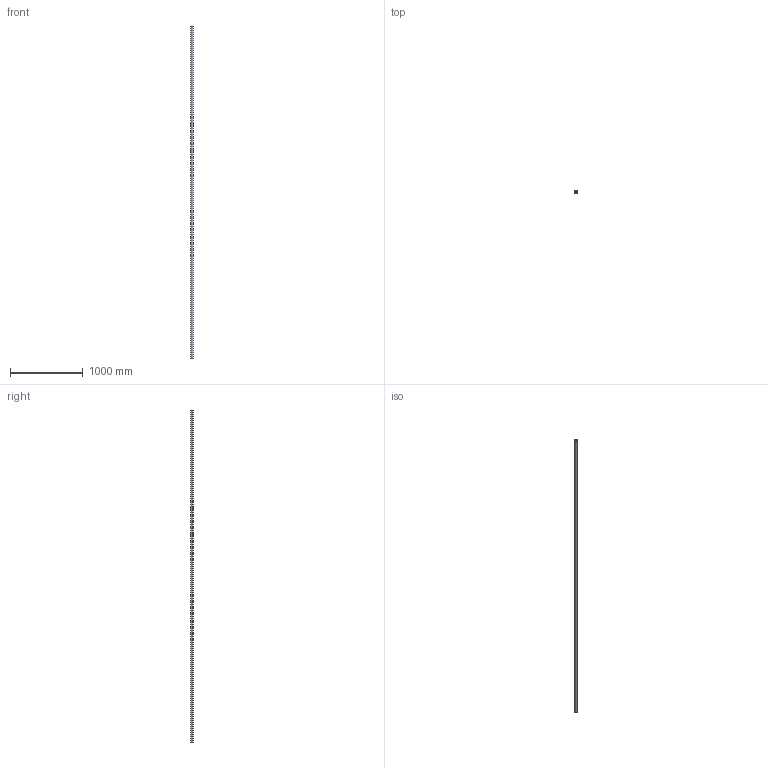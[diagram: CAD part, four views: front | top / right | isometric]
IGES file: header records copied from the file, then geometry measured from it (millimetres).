
Start section: SolidWorks IGES file using analytic representation for surfaces
Global section: file name: C:\Users\IanO\Desktop\L1771_v2\L1771.40_v2\L1771.40_v2_20230705_IGES\L1771.40-4550.igs; native system: SolidWorks 2019; preprocessor: SolidWorks 2019; author: IanO; date: 230705.162602; units: millimetre
Bounding box: 40 x 40 x 4550 mm (x, y, z)
Surface area: 973290.5 mm2 (no closed solid volume)
Topology: 0 solids, 0 shells, 6 faces, 272 edges, 272 vertices
Faces by surface type: revolution 4, bspline 2
